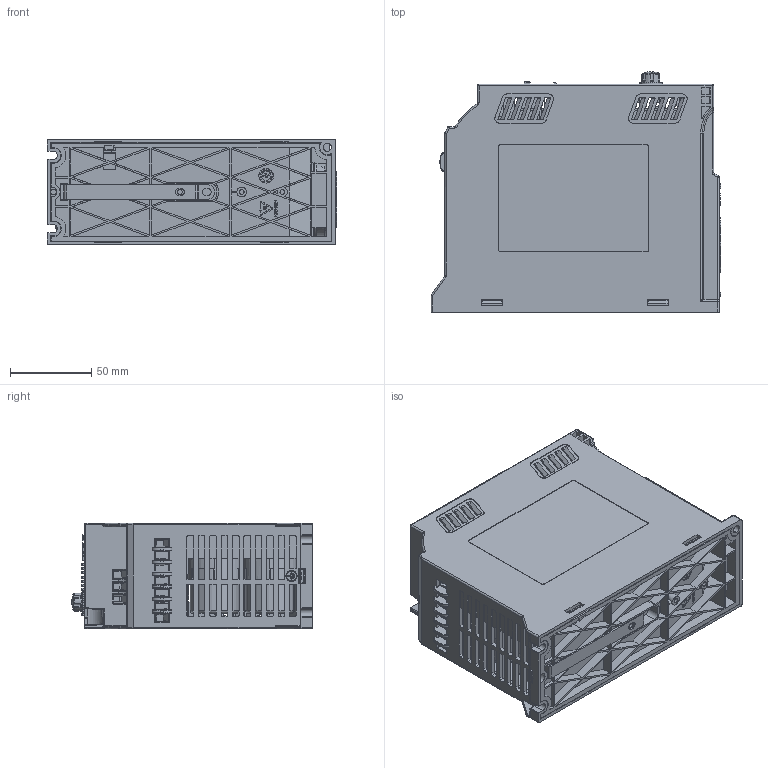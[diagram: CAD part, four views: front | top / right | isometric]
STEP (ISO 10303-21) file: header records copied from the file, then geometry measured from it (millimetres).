
FILE_DESCRIPTION (( 'STEP AP214' ), '1' );
FILE_NAME ('KC100 2S04R 軞傖.STEP', '2023-09-05T01:32:34', ( '' ), ( '' ), 'SwSTEP 2.0', 'SolidWorks 2020', '' );
FILE_SCHEMA (( 'AUTOMOTIVE_DESIGN' ));
Length unit declared in the file: millimetre
Products named in the file (1): KC100  2S04R 軞傖
Bounding box: 178 x 147.8 x 65 mm (x, y, z)
Surface area: 266626.3 mm2 (no closed solid volume)
Topology: 0 solids, 70 shells, 2398 faces, 10893 edges, 8404 vertices
Faces by surface type: plane 1409, cylinder 762, bspline 116, torus 66, sphere 26, cone 19
Entity records: 157527 total; most frequent: CARTESIAN_POINT 47798, ORIENTED_EDGE 16562, DIRECTION 15158, EDGE_CURVE 10870, VERTEX_POINT 8404, LINE 6812, VECTOR 6812, AXIS2_PLACEMENT_3D 4173
